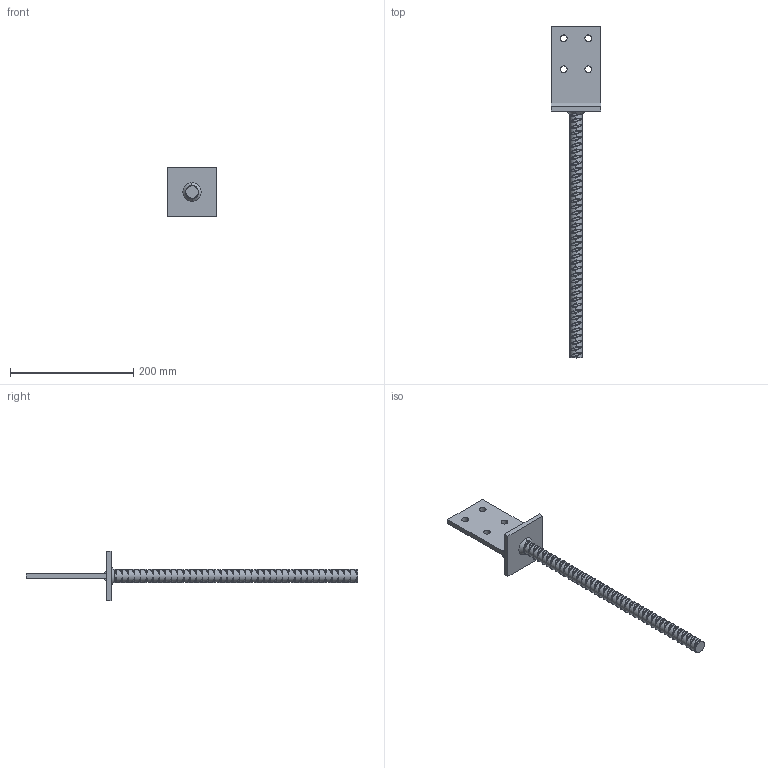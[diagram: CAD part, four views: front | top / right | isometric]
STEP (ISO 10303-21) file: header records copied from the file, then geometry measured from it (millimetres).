
FILE_DESCRIPTION (( 'STEP AP203' ), '1' );
FILE_NAME ('19810240.STEP', '2021-04-20T16:36:36', ( '' ), ( '' ), 'SwSTEP 2.0', 'SolidWorks 2013', '' );
FILE_SCHEMA (( 'CONFIG_CONTROL_DESIGN' ));
Length unit declared in the file: millimetre
Products named in the file (3): 19810240; Dolle 20x400; 19810201
Assembly tree (2 placements, depth 2):
  19810240
    19810201
    Dolle 20x400
Bounding box: 80 x 538 x 80 mm (x, y, z)
Volume: 265680 mm3; surface area: 72262.6 mm2
Topology: 6 solids, 6 shells, 802 faces, 2128 edges, 1338 vertices
Faces by surface type: bspline 642, cylinder 136, plane 24
Entity records: 62272 total; most frequent: CARTESIAN_POINT 47484, ORIENTED_EDGE 4256, EDGE_CURVE 2128, B_SPLINE_CURVE_WITH_KNOTS 1604, VERTEX_POINT 1338, DIRECTION 1122, EDGE_LOOP 812, FACE_OUTER_BOUND 802
